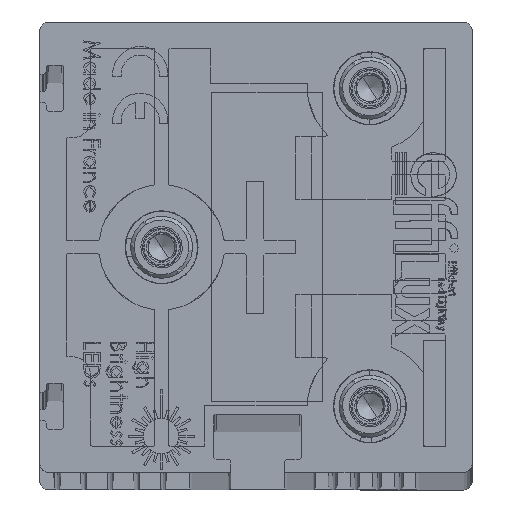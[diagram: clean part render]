
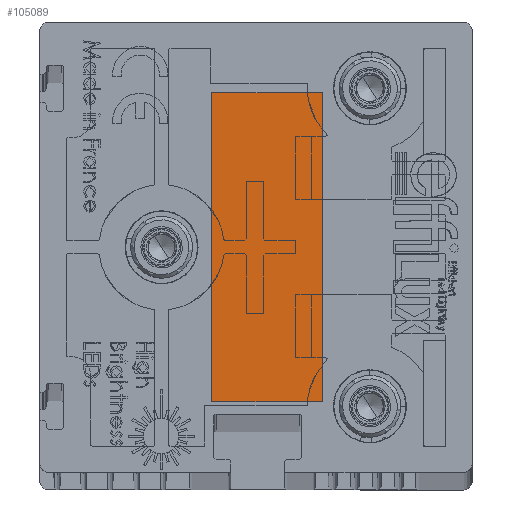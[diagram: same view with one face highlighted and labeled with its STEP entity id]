
A CAD part, top view. The second image highlights one B-rep face of the part: STEP entity #105089.
In plain terms, the highlighted planar face has unit normal (0, 0, 1) as drawn and (0, -1, 0) by its records, which use the part's own axes.
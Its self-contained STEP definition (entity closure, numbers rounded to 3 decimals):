
#298 = DIRECTION ( 'NONE',  ( 0., 0., -1. ) ) ;
#9215 = LINE ( 'NONE', #117560, #118397 ) ;
#14651 = LINE ( 'NONE', #122813, #30777 ) ;
#16062 = ORIENTED_EDGE ( 'NONE', *, *, #106720, .T. ) ;
#18542 = DIRECTION ( 'NONE',  ( 0., -1., 0. ) ) ;
#30777 = VECTOR ( 'NONE', #298, 1000. ) ;
#36186 = CARTESIAN_POINT ( 'NONE',  ( 43., 0.1, -32. ) ) ;
#38719 = PLANE ( 'NONE',  #48247 ) ;
#46472 = DIRECTION ( 'NONE',  ( 0., 0., 1. ) ) ;
#46611 = VECTOR ( 'NONE', #46472, 1000. ) ;
#47908 = CARTESIAN_POINT ( 'NONE',  ( 8., 0.1, -19.5 ) ) ;
#48247 = AXIS2_PLACEMENT_3D ( 'NONE', #70120, #18542, #80881 ) ;
#48657 = EDGE_CURVE ( 'NONE', #124106, #101514, #54656, .T. ) ;
#52043 = VERTEX_POINT ( 'NONE', #47908 ) ;
#52137 = CARTESIAN_POINT ( 'NONE',  ( 43., 0.1, -32. ) ) ;
#54656 = LINE ( 'NONE', #36186, #46611 ) ;
#55128 = CARTESIAN_POINT ( 'NONE',  ( 8., 0.1, -32. ) ) ;
#56053 = DIRECTION ( 'NONE',  ( -1., 0., 0. ) ) ;
#60865 = EDGE_CURVE ( 'NONE', #52043, #95938, #14651, .T. ) ;
#61627 = DIRECTION ( 'NONE',  ( 1., 0., 0. ) ) ;
#66533 = FACE_OUTER_BOUND ( 'NONE', #125467, .T. ) ;
#70120 = CARTESIAN_POINT ( 'NONE',  ( 43., 0.1, -19.5 ) ) ;
#77330 = ORIENTED_EDGE ( 'NONE', *, *, #126229, .T. ) ;
#80881 = DIRECTION ( 'NONE',  ( 0., 0., -1. ) ) ;
#88054 = ORIENTED_EDGE ( 'NONE', *, *, #60865, .T. ) ;
#91125 = CARTESIAN_POINT ( 'NONE',  ( 43., 0.1, -19.5 ) ) ;
#95938 = VERTEX_POINT ( 'NONE', #55128 ) ;
#101514 = VERTEX_POINT ( 'NONE', #91125 ) ;
#105089 = ADVANCED_FACE ( 'NONE', ( #66533 ), #38719, .T. ) ;
#105123 = ORIENTED_EDGE ( 'NONE', *, *, #48657, .T. ) ;
#106720 = EDGE_CURVE ( 'NONE', #95938, #124106, #109459, .T. ) ;
#109459 = LINE ( 'NONE', #124025, #130283 ) ;
#117560 = CARTESIAN_POINT ( 'NONE',  ( 43., 0.1, -19.5 ) ) ;
#118397 = VECTOR ( 'NONE', #56053, 1000. ) ;
#122813 = CARTESIAN_POINT ( 'NONE',  ( 8., 0.1, -32. ) ) ;
#124025 = CARTESIAN_POINT ( 'NONE',  ( 43., 0.1, -32. ) ) ;
#124106 = VERTEX_POINT ( 'NONE', #52137 ) ;
#125467 = EDGE_LOOP ( 'NONE', ( #105123, #77330, #88054, #16062 ) ) ;
#126229 = EDGE_CURVE ( 'NONE', #101514, #52043, #9215, .T. ) ;
#130283 = VECTOR ( 'NONE', #61627, 1000. ) ;
